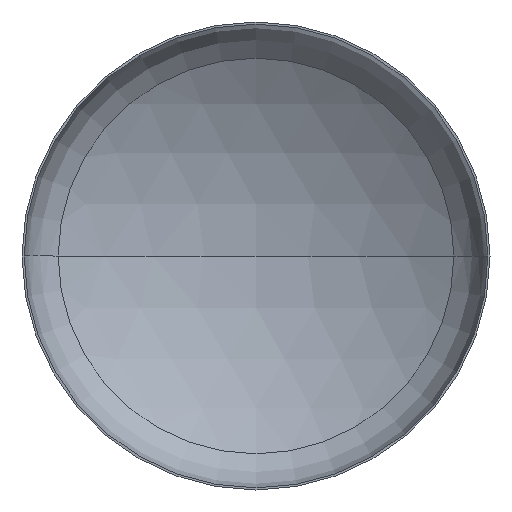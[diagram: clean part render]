
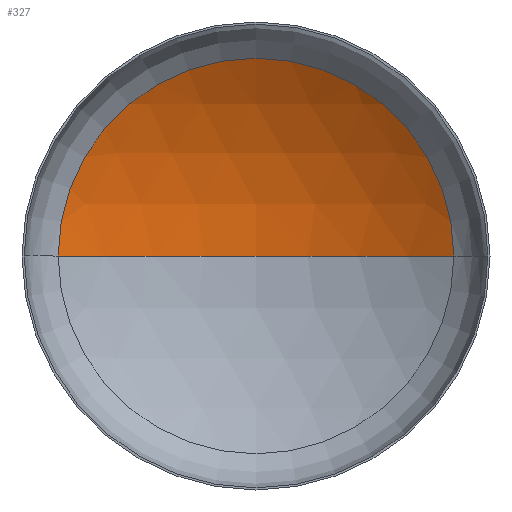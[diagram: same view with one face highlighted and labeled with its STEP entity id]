
A CAD part, front view. The second image highlights one B-rep face of the part: STEP entity #327.
In plain terms, the highlighted spherical face has radius 5600 mm.
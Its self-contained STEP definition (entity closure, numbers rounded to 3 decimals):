
#9 = AXIS2_PLACEMENT_3D ( 'NONE', #146, #391, #145 ) ;
#13 = ORIENTED_EDGE ( 'NONE', *, *, #117, .T. ) ;
#15 = VERTEX_POINT ( 'NONE', #270 ) ;
#52 = AXIS2_PLACEMENT_3D ( 'NONE', #209, #207, #208 ) ;
#53 = AXIS2_PLACEMENT_3D ( 'NONE', #284, #282, #220 ) ;
#56 = AXIS2_PLACEMENT_3D ( 'NONE', #272, #181, #190 ) ;
#74 = CIRCLE ( 'NONE', #56, 2958.584 ) ;
#86 = VERTEX_POINT ( 'NONE', #243 ) ;
#115 = EDGE_CURVE ( 'NONE', #141, #15, #74, .T. ) ;
#117 = EDGE_CURVE ( 'NONE', #86, #141, #205, .T. ) ;
#119 = EDGE_CURVE ( 'NONE', #86, #15, #324, .T. ) ;
#137 = EDGE_LOOP ( 'NONE', ( #165, #13, #233 ) ) ;
#141 = VERTEX_POINT ( 'NONE', #378 ) ;
#145 = DIRECTION ( 'NONE',  ( -1., 0., 0. ) ) ;
#146 = CARTESIAN_POINT ( 'NONE',  ( 0., -3737.689, 0. ) ) ;
#147 = SPHERICAL_SURFACE ( 'NONE', #9, 5600. ) ;
#165 = ORIENTED_EDGE ( 'NONE', *, *, #119, .F. ) ;
#181 = DIRECTION ( 'NONE',  ( 0., -1., 0. ) ) ;
#190 = DIRECTION ( 'NONE',  ( 1., 0., 0. ) ) ;
#205 = CIRCLE ( 'NONE', #53, 5600. ) ;
#207 = DIRECTION ( 'NONE',  ( 0., 0., 1. ) ) ;
#208 = DIRECTION ( 'NONE',  ( 1., 0., 0. ) ) ;
#209 = CARTESIAN_POINT ( 'NONE',  ( 0., -3737.689, 0. ) ) ;
#220 = DIRECTION ( 'NONE',  ( -1., 0., 0. ) ) ;
#233 = ORIENTED_EDGE ( 'NONE', *, *, #115, .T. ) ;
#236 = FACE_OUTER_BOUND ( 'NONE', #137, .T. ) ;
#243 = CARTESIAN_POINT ( 'NONE',  ( 0., 1862.311, 0. ) ) ;
#270 = CARTESIAN_POINT ( 'NONE',  ( -2958.584, 1016.97, 0. ) ) ;
#272 = CARTESIAN_POINT ( 'NONE',  ( 0., 1016.97, 0. ) ) ;
#282 = DIRECTION ( 'NONE',  ( 0., 0., -1. ) ) ;
#284 = CARTESIAN_POINT ( 'NONE',  ( 0., -3737.689, 0. ) ) ;
#324 = CIRCLE ( 'NONE', #52, 5600. ) ;
#327 = ADVANCED_FACE ( 'NONE', ( #236 ), #147, .F. ) ;
#378 = CARTESIAN_POINT ( 'NONE',  ( 2958.584, 1016.97, 0. ) ) ;
#391 = DIRECTION ( 'NONE',  ( 0., 0., -1. ) ) ;
